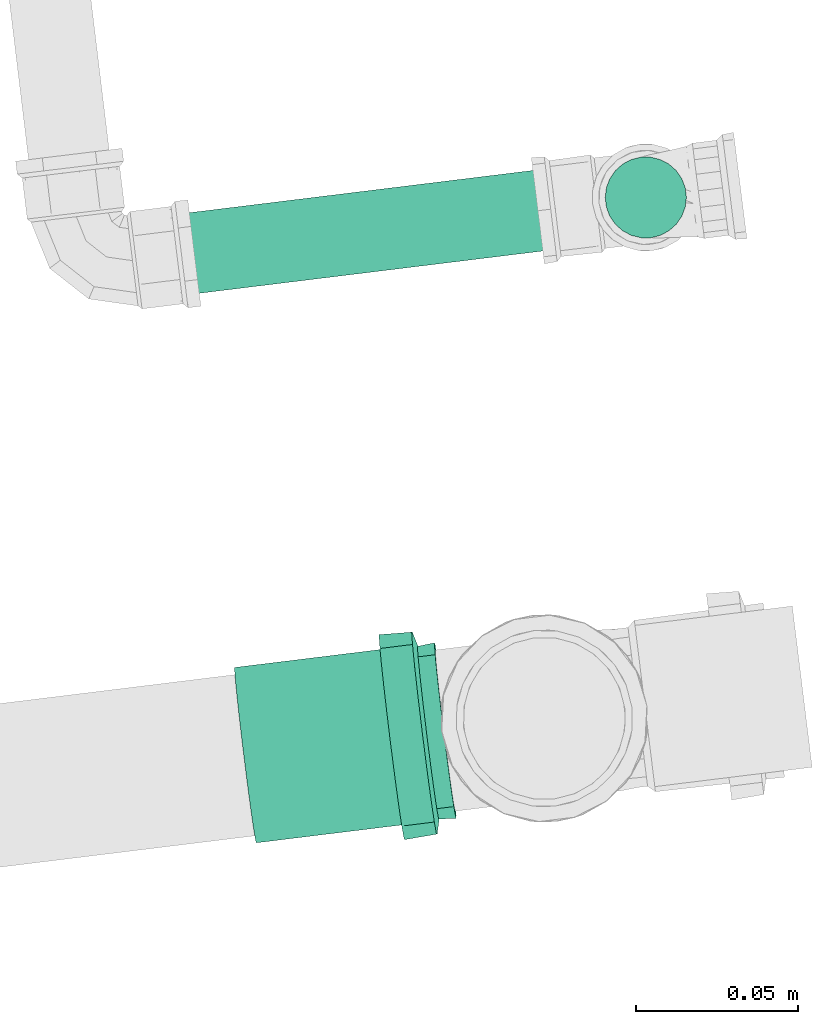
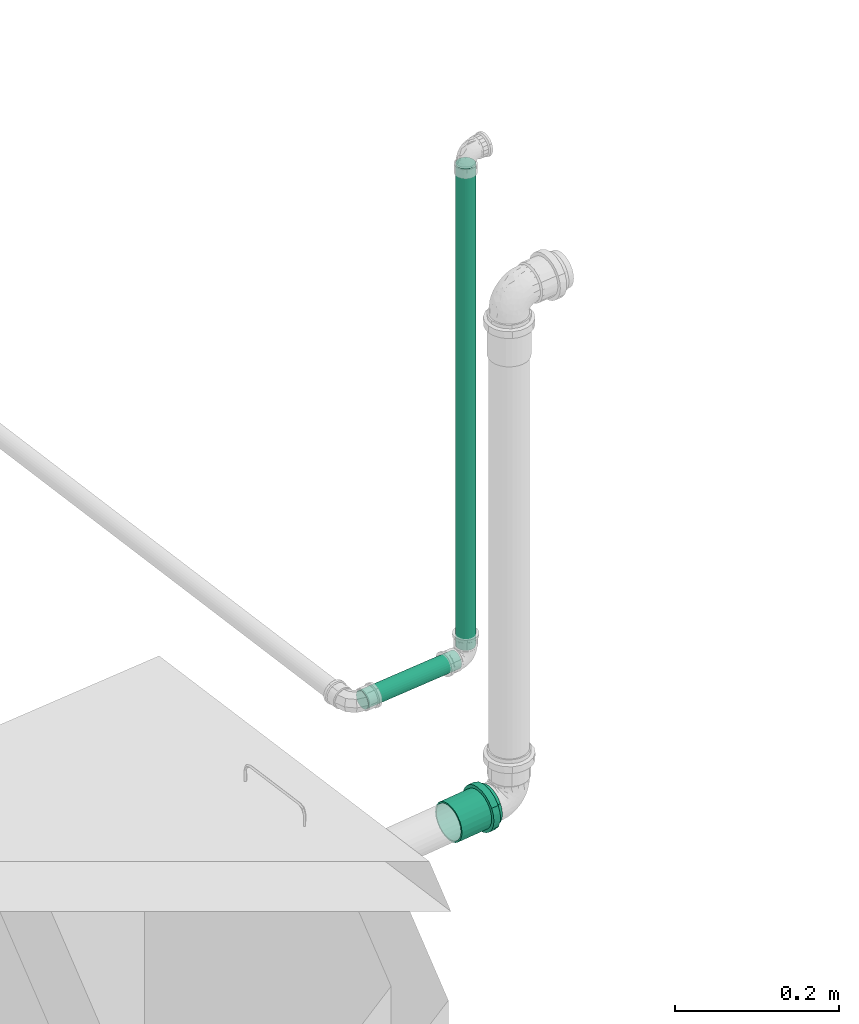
# One storey, part 35 of 97: 2 flow segments, 1 flow fitting.
"""IFC2X3 building model written with IfcOpenShell, lengths in centimetres."""

from ifc_helpers import new_model, entity, si_unit, converted_unit, derived_unit, direction, frame, origin, origin_2d_with_axis, place, context, subcontext, project, spatial, circle, extrude, faceted_brep, source, transform, mapped, material, type_object, type_shapes, element, save


model = new_model("IFC2X3")

# Units and contexts
model_context = context("Model", 3, precision=0.001, world=origin(), true_north=direction((6.12303176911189e-17, 1.0)))
body_context = subcontext(model_context, "Body", "Model", "MODEL_VIEW")
ifc_project = project(units=[si_unit("LENGTHUNIT", "METRE", prefix="CENTI"), si_unit("AREAUNIT", "SQUARE_METRE"), si_unit("VOLUMEUNIT", "CUBIC_METRE"), converted_unit("PLANEANGLEUNIT", "DEGREE", entity("IfcRatioMeasure", 0.0174532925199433), si_unit("PLANEANGLEUNIT", "RADIAN"), dimensions=[0, 0, 0, 0, 0, 0, 0]), si_unit("MASSUNIT", "GRAM", prefix="KILO"), derived_unit("MASSDENSITYUNIT", [(si_unit("MASSUNIT", "GRAM", prefix="KILO"), 1), (si_unit("LENGTHUNIT", "METRE"), -3)]), derived_unit("MOMENTOFINERTIAUNIT", [(si_unit("LENGTHUNIT", "METRE"), 4)]), si_unit("TIMEUNIT", "SECOND"), si_unit("FREQUENCYUNIT", "HERTZ"), si_unit("THERMODYNAMICTEMPERATUREUNIT", "DEGREE_CELSIUS"), derived_unit("THERMALTRANSMITTANCEUNIT", [(si_unit("MASSUNIT", "GRAM", prefix="KILO"), 1), (si_unit("THERMODYNAMICTEMPERATUREUNIT", "KELVIN"), -1), (si_unit("TIMEUNIT", "SECOND"), -3)]), derived_unit("VOLUMETRICFLOWRATEUNIT", [(si_unit("LENGTHUNIT", "METRE"), 3), (si_unit("TIMEUNIT", "SECOND"), -1)]), si_unit("ELECTRICCURRENTUNIT", "AMPERE"), si_unit("ELECTRICVOLTAGEUNIT", "VOLT"), si_unit("POWERUNIT", "WATT"), si_unit("FORCEUNIT", "NEWTON", prefix="KILO"), si_unit("ILLUMINANCEUNIT", "LUX"), si_unit("LUMINOUSFLUXUNIT", "LUMEN"), si_unit("LUMINOUSINTENSITYUNIT", "CANDELA"), derived_unit("USERDEFINED", [(si_unit("MASSUNIT", "GRAM", prefix="KILO"), -1), (si_unit("LENGTHUNIT", "METRE"), -2), (si_unit("TIMEUNIT", "SECOND"), 3), (si_unit("LUMINOUSFLUXUNIT", "LUMEN"), 1)]), derived_unit("LINEARVELOCITYUNIT", [(si_unit("LENGTHUNIT", "METRE"), 1), (si_unit("TIMEUNIT", "SECOND"), -1)]), si_unit("PRESSUREUNIT", "PASCAL"), derived_unit("USERDEFINED", [(si_unit("LENGTHUNIT", "METRE"), -2), (si_unit("MASSUNIT", "GRAM", prefix="KILO"), 1), (si_unit("TIMEUNIT", "SECOND"), -2)]), derived_unit("LINEARFORCEUNIT", [(si_unit("MASSUNIT", "GRAM", prefix="KILO"), 1), (si_unit("LENGTHUNIT", "METRE"), 1), (si_unit("TIMEUNIT", "SECOND"), -2), (si_unit("LENGTHUNIT", "METRE"), -1)]), derived_unit("PLANARFORCEUNIT", [(si_unit("MASSUNIT", "GRAM", prefix="KILO"), 1), (si_unit("LENGTHUNIT", "METRE"), 1), (si_unit("TIMEUNIT", "SECOND"), -2), (si_unit("LENGTHUNIT", "METRE"), -2)])], contexts=[model_context])

# Site, building, storey
site_placement = place(None, origin())
site = spatial("IfcSite", under=ifc_project, at=site_placement, Name="Default", CompositionType="ELEMENT")
building_placement = place(site_placement, origin())
building = spatial("IfcBuilding", under=site, at=building_placement, Name="HIDROSSANITÁRIO", CompositionType="ELEMENT")
storey_placement = place(building_placement, frame((0.0, 0.0, -260.0)))
storey = spatial("IfcBuildingStorey", under=building, at=storey_placement, Name="TÉRREO-HID", CompositionType="ELEMENT", Elevation=-260.0)

# Flow segments
pipe_segment_type = type_object("IfcPipeSegmentType", Name="Tipos de tubos:Tubo Marrom - Água Fria - Soldável", PredefinedType="NOTDEFINED")
flow_segment_1_placement = place(storey_placement, origin())
element("IfcFlowSegment", 1, at=flow_segment_1_placement, inside=storey, type_object=pipe_segment_type, Name="Tipos de tubos:Tubo Marrom - Água Fria - Soldável", ObjectType="Tipos de tubos:Tubo Marrom - Água Fria - Soldável", context=body_context, shape_type="SweptSolid", body=[
    extrude(circle(Radius=1.25, at=origin_2d_with_axis()), frame((-207.715442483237, 3084.04529122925, -13.46), z_axis=(0.0, 0.0, 1.0), x_axis=(-1.0, 0.0, 0.0)), (0.0, 0.0, 1.0), 71.83),
])
flow_segment_2_placement = place(storey_placement, origin())
element("IfcFlowSegment", 2, at=flow_segment_2_placement, inside=storey, type_object=pipe_segment_type, Name="Tipos de tubos:Tubo Marrom - Água Fria - Soldável", ObjectType="Tipos de tubos:Tubo Marrom - Água Fria - Soldável", context=body_context, shape_type="SweptSolid", body=[
    extrude(circle(Radius=1.25, at=origin_2d_with_axis()), frame((-223.407843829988, 3082.11396330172, -15.0), z_axis=(0.992511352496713, 0.122152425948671, 0.0), x_axis=(-0.122152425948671, 0.992511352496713, 0.0)), (0.0, 0.0, 1.0), 14.2708028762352),
])

# Flow fitting
ifc_material = material(Name="PVC Branco")
pipe_fitting_type = type_object("IfcPipeFittingType", Name="Luva Simples para Conexão - Serie Normal - Esgoto - MEP - Tigre:Standard", PredefinedType="NOTDEFINED", material=ifc_material)
shared_shape = source(origin(), body_context, "Body", "Brep", [
    faceted_brep([(1.65999999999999, 1.59, -2.75396078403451), (1.65999999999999, 2.24859956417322, -2.24859956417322), (1.65999999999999, 1.35999999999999, -2.35558909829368), (1.65999999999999, 0.703987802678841, -2.62731824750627), (1.65999999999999, 0.82304456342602, -3.07164412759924), (1.65999999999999, 1.9233304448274, -1.92333044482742), (1.65999999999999, 2.75396078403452, -1.59), (1.65999999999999, 2.35558909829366, -1.36000000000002), (1.65999999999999, 2.62731824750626, -0.703987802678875), (1.65999999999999, 3.07164412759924, -0.823044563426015), (1.65999999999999, 2.72, 0.0), (1.65999999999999, 3.18, 0.0), (1.65999999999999, 2.62731824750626, 0.703987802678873), (1.65999999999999, 3.07164412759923, 0.823044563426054), (1.65999999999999, 2.35558909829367, 1.36000000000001), (1.65999999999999, 2.7539607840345, 1.59000000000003), (1.65999999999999, 1.9233304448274, 1.92333044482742), (1.65999999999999, 2.24859956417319, 2.24859956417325), (1.65999999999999, 1.35999999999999, 2.35558909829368), (1.65999999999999, 1.58999999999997, 2.75396078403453), (1.65999999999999, 0.703987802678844, 2.62731824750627), (1.65999999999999, 0.823044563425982, 3.07164412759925), (1.65999999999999, 0.0, 2.72), (1.65999999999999, 0.0, 3.18), (1.65999999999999, -0.703987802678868, 2.62731824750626), (1.65999999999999, -0.823044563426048, 3.07164412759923), (1.65999999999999, -1.36000000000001, 2.35558909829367), (1.65999999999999, -1.59000000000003, 2.7539607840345), (1.65999999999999, -1.92333044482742, 1.9233304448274), (1.65999999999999, -2.24859956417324, 2.2485995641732), (1.65999999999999, -2.35558909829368, 1.35999999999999), (1.65999999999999, -2.75396078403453, 1.58999999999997), (1.65999999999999, -3.07164412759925, 0.823044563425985), (1.65999999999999, -2.62731824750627, 0.703987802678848), (1.65999999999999, -3.18, 0.0), (1.65999999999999, -2.72, 0.0), (1.65999999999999, -3.07164412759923, -0.823044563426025), (1.65999999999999, -2.62731824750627, -0.703987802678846), (1.65999999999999, -2.75396078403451, -1.59000000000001), (1.65999999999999, -2.35558909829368, -1.35999999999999), (1.65999999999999, -2.24859956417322, -2.24859956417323), (1.65999999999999, -1.92333044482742, -1.9233304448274), (1.65999999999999, -1.58999999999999, -2.75396078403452), (1.65999999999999, -1.36000000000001, -2.35558909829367), (1.65999999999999, -0.823044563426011, -3.07164412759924), (1.65999999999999, -0.70398780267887, -2.62731824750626), (1.65999999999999, 0.0, -3.18), (1.65999999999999, 0.0, -2.72), (0.650000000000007, -1.07081089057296, 2.94292196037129), (0.650000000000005, -2.43590738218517, 2.04420038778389), (0.650000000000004, -2.7120498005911, 1.56595386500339), (0.650000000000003, -2.98819221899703, 1.08770734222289), (0.650000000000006, -1.58976972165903, 2.75409372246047), (0.650000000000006, -2.0128385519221, 2.39914705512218), (0.650000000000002, -3.08409610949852, 0.54385367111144), (0.650000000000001, -3.18, 0.0), (0.650000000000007, -0.551852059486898, 3.13175019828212), (0.650000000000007, 0.552637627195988, 3.13161167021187), (0.650000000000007, 0.000392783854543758, 3.13168093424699), (0.650000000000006, 2.01344030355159, 2.39864206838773), (0.650000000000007, 1.07154907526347, 2.94265325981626), (0.650000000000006, 1.59046052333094, 2.75369484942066), (0.650000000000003, 2.98846497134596, 1.08695773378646), (0.650000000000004, 2.7124425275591, 1.56527351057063), (0.650000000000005, 2.43642008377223, 2.0435892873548), (0.650000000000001, 3.18, 0.0), (0.649999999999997, 2.43642008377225, -2.04358928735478), (0.649999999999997, 2.71244252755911, -1.5652735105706), (0.649999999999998, 2.98846497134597, -1.08695773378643), (0.649999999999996, 1.59046052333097, -2.75369484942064), (0.649999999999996, 2.01344030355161, -2.39864206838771), (0.649999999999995, 1.07154907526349, -2.94265325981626), (0.649999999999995, 0.552637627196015, -3.13161167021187), (0.649999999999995, -0.551852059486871, -3.13175019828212), (0.649999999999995, 0.000392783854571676, -3.13168093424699), (0.649999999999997, -2.01283855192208, -2.3991470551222), (0.649999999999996, -1.58976972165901, -2.75409372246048), (0.649999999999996, -1.07081089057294, -2.9429219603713), (0.649999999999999, -2.98819221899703, -1.08770734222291), (0.649999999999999, -2.71204980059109, -1.56595386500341), (0.649999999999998, -2.43590738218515, -2.04420038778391), (0.65, -3.08409610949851, -0.543853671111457), (0.64999999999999, -3.06961738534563, -0.625959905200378), (6.20000000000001, 1.36, -2.35558909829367), (6.20000000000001, 1.92333044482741, -1.92333044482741), (6.20000000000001, 1.24999999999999, -2.1650635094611), (6.20000000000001, 0.647047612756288, -2.41481456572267), (6.20000000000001, 0.70398780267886, -2.62731824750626), (6.20000000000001, 1.76776695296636, -1.76776695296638), (6.20000000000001, 2.35558909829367, -1.36), (6.20000000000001, 2.16506350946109, -1.25000000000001), (6.20000000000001, 2.41481456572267, -0.647047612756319), (6.20000000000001, 2.62731824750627, -0.703987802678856), (6.20000000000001, 2.5, 0.0), (6.20000000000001, 2.72, 0.0), (6.20000000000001, 2.41481456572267, 0.647047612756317), (6.20000000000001, 2.62731824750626, 0.703987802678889), (6.20000000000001, 2.16506350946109, 1.25000000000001), (6.20000000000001, 2.35558909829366, 1.36000000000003), (6.20000000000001, 1.76776695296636, 1.76776695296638), (6.20000000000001, 1.92333044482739, 1.92333044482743), (6.20000000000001, 1.24999999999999, 2.1650635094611), (6.20000000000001, 1.35999999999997, 2.35558909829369), (6.20000000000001, 0.64704761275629, 2.41481456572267), (6.20000000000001, 0.703987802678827, 2.62731824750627), (6.20000000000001, 0.0, 2.5), (6.20000000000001, 0.0, 2.72), (6.20000000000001, -0.647047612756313, 2.41481456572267), (6.20000000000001, -0.703987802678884, 2.62731824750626), (6.20000000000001, -1.25000000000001, 2.16506350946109), (6.20000000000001, -1.36000000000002, 2.35558909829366), (6.20000000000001, -1.76776695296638, 1.76776695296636), (6.20000000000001, -1.92333044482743, 1.92333044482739), (6.20000000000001, -2.1650635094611, 1.24999999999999), (6.20000000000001, -2.35558909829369, 1.35999999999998), (6.20000000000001, -2.62731824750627, 0.703987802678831), (6.20000000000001, -2.41481456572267, 0.647047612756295), (6.20000000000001, -2.72, 0.0), (6.20000000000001, -2.5, 0.0), (6.20000000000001, -2.62731824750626, -0.703987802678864), (6.20000000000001, -2.41481456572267, -0.647047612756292), (6.20000000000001, -2.35558909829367, -1.36000000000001), (6.20000000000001, -2.1650635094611, -1.24999999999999), (6.20000000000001, -1.9233304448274, -1.92333044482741), (6.20000000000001, -1.76776695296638, -1.76776695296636), (6.20000000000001, -1.36, -2.35558909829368), (6.20000000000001, -1.25000000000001, -2.16506350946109), (6.20000000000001, -0.703987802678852, -2.62731824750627), (6.20000000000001, -0.647047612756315, -2.41481456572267), (6.20000000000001, 0.0, -2.72), (6.20000000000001, 0.0, -2.5), (0.0, 1.24999999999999, -2.1650635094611), (0.0, 1.92333044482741, -1.92333044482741), (0.0, 1.36, -2.35558909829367), (0.0, 0.647047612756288, -2.41481456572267), (0.0, 1.76776695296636, -1.76776695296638), (0.0, 2.35558909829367, -1.36), (0.0, 2.16506350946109, -1.25000000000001), (0.0, 2.41481456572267, -0.647047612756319), (0.0, 2.62731824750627, -0.703987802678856), (0.0, 2.5, 0.0), (0.0, 2.72, 0.0), (0.0, 2.41481456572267, 0.647047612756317), (0.0, 2.62731824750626, 0.703987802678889), (0.0, 2.16506350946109, 1.25000000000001), (0.0, 2.35558909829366, 1.36000000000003), (0.0, 1.76776695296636, 1.76776695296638), (0.0, 1.92333044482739, 1.92333044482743), (0.0, 1.24999999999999, 2.1650635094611), (0.0, 1.35999999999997, 2.35558909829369), (0.0, 0.64704761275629, 2.41481456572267), (0.0, 0.703987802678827, 2.62731824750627), (0.0, 0.0, 2.5), (0.0, 0.0, 2.72), (0.0, -0.647047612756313, 2.41481456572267), (0.0, -0.703987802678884, 2.62731824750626), (0.0, -1.25000000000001, 2.16506350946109), (0.0, -1.36000000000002, 2.35558909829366), (0.0, -1.76776695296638, 1.76776695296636), (0.0, -1.92333044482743, 1.92333044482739), (0.0, -2.1650635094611, 1.24999999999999), (0.0, -2.35558909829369, 1.35999999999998), (0.0, -2.62731824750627, 0.703987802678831), (0.0, -2.41481456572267, 0.647047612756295), (0.0, -2.72, 0.0), (0.0, -2.5, 0.0), (0.0, -2.62731824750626, -0.703987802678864), (0.0, -2.41481456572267, -0.647047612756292), (0.0, -2.35558909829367, -1.36000000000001), (0.0, -2.1650635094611, -1.24999999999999), (0.0, -1.9233304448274, -1.92333044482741), (0.0, -1.76776695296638, -1.76776695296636), (0.0, -1.36, -2.35558909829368), (0.0, -1.25000000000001, -2.16506350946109), (0.0, -0.703987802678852, -2.62731824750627), (0.0, -0.647047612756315, -2.41481456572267), (0.0, 0.0, -2.72), (0.0, 0.0, -2.5), (0.0, 0.70398780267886, -2.62731824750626), (0.53, -2.63796899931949, 0.465183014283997), (0.529999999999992, -2.62558467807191, 0.535412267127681), (0.530000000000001, -2.55593799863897, 0.930366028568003), (0.530000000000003, -2.08354342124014, 1.74849844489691), (0.530000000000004, -1.72167322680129, 2.05210062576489), (0.530000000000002, -2.31974070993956, 1.33943223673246), (0.530000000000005, -0.472024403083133, 2.67872972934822), (0.530000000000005, -0.915913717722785, 2.51721626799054), (0.53, -2.72, 0.0), (0.530000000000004, -1.35980303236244, 2.35570280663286), (0.530000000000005, 0.916545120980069, 2.51698643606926), (0.530000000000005, 1.36039390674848, 2.35536163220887), (0.530000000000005, 0.47269633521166, 2.67861123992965), (0.530000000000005, 1.72218793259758, 2.05166868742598), (0.530000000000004, 2.08398195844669, 1.7479757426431), (0.530000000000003, 2.5561712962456, 0.929724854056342), (0.53, 2.72, 0.0), (0.530000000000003, 2.32007662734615, 1.33885029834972), (0.530000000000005, 0.000335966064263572, 2.67867048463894), (0.529999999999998, 2.55617129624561, -0.929724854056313), (0.529999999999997, 2.08398195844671, -1.74797574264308), (0.529999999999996, 1.7221879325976, -2.05166868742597), (0.529999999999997, 2.32007662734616, -1.3388502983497), (0.529999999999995, 0.472696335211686, -2.67861123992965), (0.529999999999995, 0.916545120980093, -2.51698643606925), (0.529999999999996, 1.3603939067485, -2.35536163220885), (0.529999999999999, -2.63796899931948, -0.465183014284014), (0.529999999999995, -0.915913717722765, -2.51721626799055), (0.529999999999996, -1.35980303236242, -2.35570280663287), (0.529999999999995, -0.47202440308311, -2.67872972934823), (0.529999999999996, -1.72167322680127, -2.0521006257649), (0.529999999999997, -2.08354342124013, -1.74849844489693), (0.529999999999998, -2.55593799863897, -0.930366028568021), (0.529999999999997, -2.31974070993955, -1.33943223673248), (0.529999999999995, 0.000335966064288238, -2.67867048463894), (3.9, -2.5, 0.0), (3.9, 2.5, 0.0)], [[[0, 1, 2]], [[0, 2, 3]], [[3, 4, 0]], [[2, 1, 5]], [[6, 5, 1]], [[7, 5, 6]], [[8, 7, 6]], [[8, 6, 9]], [[8, 9, 10]], [[10, 9, 11]], [[12, 10, 11]], [[12, 11, 13]], [[14, 12, 13]], [[14, 13, 15]], [[16, 14, 15]], [[15, 17, 16]], [[17, 18, 16]], [[17, 19, 18]], [[18, 19, 20]], [[21, 20, 19]], [[20, 21, 22]], [[22, 21, 23]], [[22, 23, 24]], [[24, 23, 25]], [[24, 25, 26]], [[27, 26, 25]], [[27, 28, 26]], [[28, 27, 29]], [[30, 28, 29]], [[31, 30, 29]], [[32, 30, 31]], [[33, 30, 32]], [[33, 32, 34]], [[35, 33, 34]], [[36, 35, 34]], [[36, 37, 35]], [[37, 36, 38]], [[39, 37, 38]], [[39, 38, 40]], [[39, 40, 41]], [[40, 42, 41]], [[41, 42, 43]], [[43, 42, 44]], [[44, 45, 43]], [[46, 45, 44]], [[4, 47, 46]], [[46, 47, 45]], [[4, 3, 47]], [[48, 27, 25]], [[31, 29, 49]], [[31, 49, 50, 51]], [[52, 53, 27]], [[32, 51, 54]], [[54, 55, 34]], [[54, 34, 32]], [[25, 56, 48]], [[49, 29, 53]], [[23, 57, 58, 56]], [[59, 19, 17]], [[27, 53, 29]], [[48, 52, 27]], [[31, 51, 32]], [[57, 23, 21]], [[60, 19, 61]], [[15, 62, 63, 64]], [[19, 60, 21]], [[15, 13, 62]], [[17, 64, 59]], [[57, 21, 60]], [[23, 56, 25]], [[15, 64, 17]], [[13, 65, 62]], [[13, 11, 65]], [[59, 61, 19]], [[65, 11, 9]], [[6, 1, 66]], [[6, 66, 67, 68]], [[69, 70, 0]], [[68, 65, 9]], [[71, 69, 0]], [[71, 0, 4]], [[4, 72, 71]], [[66, 1, 70]], [[46, 73, 74, 72]], [[75, 76, 42]], [[0, 70, 1]], [[75, 42, 40]], [[6, 68, 9]], [[73, 46, 44]], [[77, 42, 76]], [[38, 78, 79, 80]], [[42, 77, 44]], [[38, 36, 78]], [[40, 80, 75]], [[73, 44, 77]], [[46, 72, 4]], [[38, 80, 40]], [[36, 81, 82, 78]], [[55, 81, 34]], [[34, 81, 36]], [[83, 84, 85]], [[83, 85, 86]], [[86, 87, 83]], [[85, 84, 88]], [[89, 88, 84]], [[88, 89, 90]], [[90, 89, 91]], [[92, 91, 89]], [[92, 93, 91]], [[93, 92, 94]], [[95, 93, 94]], [[94, 96, 95]], [[95, 96, 97]], [[98, 97, 96]], [[97, 98, 99]], [[99, 98, 100]], [[101, 99, 100]], [[100, 102, 101]], [[101, 102, 103]], [[104, 103, 102]], [[103, 104, 105]], [[105, 104, 106]], [[105, 106, 107]], [[107, 106, 108]], [[107, 108, 109]], [[110, 109, 108]], [[110, 111, 109]], [[111, 110, 112]], [[112, 113, 111]], [[114, 113, 112]], [[113, 114, 115]], [[115, 116, 113]], [[117, 116, 115]], [[117, 118, 116]], [[119, 118, 117]], [[119, 120, 118]], [[120, 119, 121]], [[121, 122, 120]], [[122, 121, 123]], [[122, 123, 124]], [[123, 125, 124]], [[124, 125, 126]], [[126, 125, 127]], [[127, 128, 126]], [[129, 128, 127]], [[87, 130, 129]], [[129, 130, 128]], [[87, 86, 130]], [[131, 132, 133]], [[134, 131, 133]], [[135, 132, 131]], [[132, 135, 136]], [[137, 136, 135]], [[138, 136, 137]], [[136, 138, 139]], [[138, 140, 139]], [[141, 139, 140]], [[141, 140, 142]], [[142, 143, 141]], [[144, 143, 142]], [[143, 144, 145]], [[146, 145, 144]], [[147, 145, 146]], [[147, 146, 148]], [[148, 149, 147]], [[150, 149, 148]], [[149, 150, 151]], [[152, 151, 150]], [[153, 151, 152]], [[154, 153, 152]], [[155, 153, 154]], [[156, 155, 154]], [[155, 156, 157]], [[156, 158, 157]], [[159, 157, 158]], [[158, 160, 159]], [[159, 160, 161]], [[162, 161, 160]], [[160, 163, 162]], [[162, 163, 164]], [[163, 165, 164]], [[164, 165, 166]], [[165, 167, 166]], [[168, 166, 167]], [[167, 169, 168]], [[170, 168, 169]], [[171, 170, 169]], [[171, 172, 170]], [[173, 172, 171]], [[174, 172, 173]], [[173, 175, 174]], [[174, 175, 176]], [[175, 177, 176]], [[177, 134, 178]], [[176, 177, 178]], [[133, 178, 134]], [[162, 179, 180, 181]], [[159, 182, 183]], [[182, 161, 181, 184]], [[185, 155, 186]], [[161, 162, 181]], [[187, 179, 164]], [[183, 188, 157]], [[183, 157, 159]], [[161, 182, 159]], [[189, 190, 149]], [[189, 149, 151]], [[157, 188, 186]], [[157, 186, 155]], [[153, 155, 185]], [[164, 179, 162]], [[151, 191, 189]], [[147, 192, 193]], [[143, 194, 195]], [[194, 145, 193, 196]], [[143, 195, 141]], [[10, 12, 96, 94]], [[149, 192, 147]], [[153, 185, 197, 191]], [[153, 191, 151]], [[145, 147, 193]], [[190, 192, 149]], [[145, 194, 143]], [[139, 195, 198]], [[132, 199, 200]], [[199, 136, 198, 201]], [[202, 178, 203]], [[136, 139, 198]], [[139, 141, 195]], [[92, 8, 10, 94]], [[133, 203, 178]], [[200, 204, 133]], [[136, 199, 132]], [[205, 164, 166]], [[206, 207, 172]], [[133, 204, 203]], [[206, 172, 174]], [[176, 178, 202]], [[200, 133, 132]], [[174, 208, 206]], [[170, 209, 210]], [[166, 211, 205]], [[211, 168, 210, 212]], [[168, 211, 166]], [[172, 209, 170]], [[176, 202, 213, 208]], [[176, 208, 174]], [[168, 170, 210]], [[207, 209, 172]], [[205, 187, 164]], [[116, 118, 214, 165, 163]], [[156, 109, 111, 158]], [[111, 113, 160, 158]], [[113, 116, 163, 160]], [[107, 109, 156, 154]], [[154, 152, 105, 107]], [[103, 105, 152, 150]], [[103, 150, 148, 101]], [[142, 95, 97, 144]], [[97, 99, 146, 144]], [[99, 101, 148, 146]], [[93, 95, 142, 140, 215]], [[215, 140, 138, 91, 93]], [[135, 131, 85, 88]], [[90, 91, 138, 137]], [[90, 137, 135, 88]], [[86, 85, 131, 134]], [[134, 177, 130, 86]], [[128, 130, 177, 175]], [[128, 175, 173, 126]], [[167, 120, 122, 169]], [[122, 124, 171, 169]], [[124, 126, 173, 171]], [[118, 120, 167, 165, 214]], [[211, 78, 82, 81, 55, 187, 205]], [[79, 78, 211, 212, 210, 80]], [[75, 80, 210, 209, 207, 76]], [[207, 206, 208, 73, 77, 76]], [[213, 202, 72, 74, 73, 208]], [[203, 204, 69, 71, 72, 202]], [[198, 195, 65, 68]], [[199, 201, 198, 68, 67, 66]], [[204, 200, 199, 66, 70, 69]], [[195, 194, 62, 65]], [[197, 185, 56, 58, 57, 191]], [[63, 62, 194, 196, 193, 64]], [[57, 60, 61, 190, 189, 191]], [[193, 192, 190, 61, 59, 64]], [[48, 56, 185, 186, 188, 52]], [[187, 55, 54, 51, 181, 180, 179]], [[182, 184, 181, 51, 50, 49]], [[188, 183, 182, 49, 53, 52]], [[30, 33, 115, 114]], [[117, 115, 33, 35]], [[26, 28, 112, 110]], [[114, 112, 28, 30]], [[24, 26, 110, 108]], [[108, 106, 22, 24]], [[18, 20, 104, 102]], [[100, 16, 18, 102]], [[12, 14, 98, 96]], [[100, 98, 14, 16]], [[104, 20, 22, 106]], [[89, 7, 8, 92]], [[83, 87, 3, 2]], [[7, 89, 84, 5]], [[83, 2, 5, 84]], [[87, 129, 47, 3]], [[43, 45, 127, 125]], [[123, 41, 43, 125]], [[37, 39, 121, 119]], [[123, 121, 39, 41]], [[35, 37, 119, 117]], [[127, 45, 47, 129]]]),
])
type_shapes(pipe_fitting_type, [shared_shape])
flow_fitting_placement = place(storey_placement, frame((-213.884955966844, 3067.63457582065, -25.0613581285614), z_axis=(-0.122152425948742, 0.992511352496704, 0.0), x_axis=(-0.992312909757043, -0.122128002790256, -0.0199960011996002)))
element("IfcFlowFitting", 3, at=flow_fitting_placement, inside=storey, type_object=pipe_fitting_type, material=ifc_material, Name="Luva Simples para Conexão - Serie Normal - Esgoto - MEP - Tigre:Standard", ObjectType="Luva Simples para Conexão - Serie Normal - Esgoto - MEP - Tigre:Standard", context=body_context, shape_type="MappedRepresentation", body=[
    mapped(shared_shape, transform((0.0, 0.0, 0.0), scale=1.0)),
])

save(model, "model.ifc")
